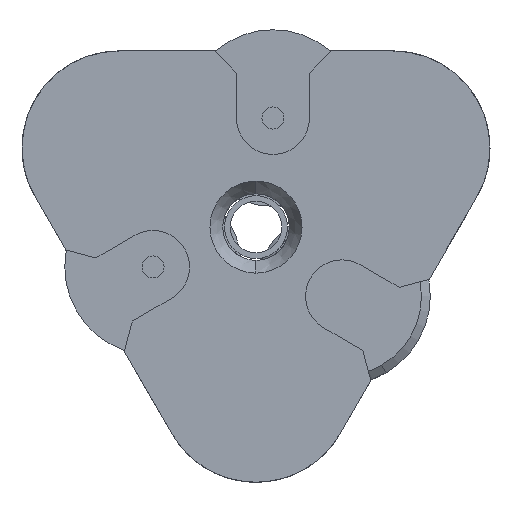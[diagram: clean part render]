
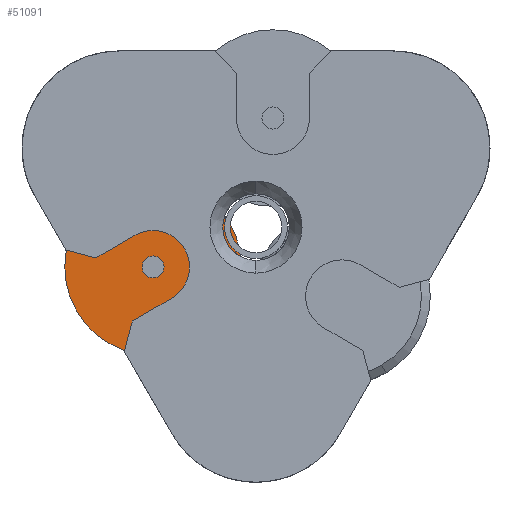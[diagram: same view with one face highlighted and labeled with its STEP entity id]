
A CAD part, front view. The second image highlights one B-rep face of the part: STEP entity #51091.
In plain terms, the highlighted planar face has unit normal (0, -1, 0) as drawn and (0, 0, -1) by its records, which use the part's own axes.
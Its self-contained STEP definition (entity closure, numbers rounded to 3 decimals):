
#769 = CARTESIAN_POINT ( 'NONE',  ( -2., 0., 0. ) ) ;
#2387 = DIRECTION ( 'NONE',  ( 0., 0., -1. ) ) ;
#2534 = CARTESIAN_POINT ( 'NONE',  ( 0., 0., 0. ) ) ;
#3309 = CARTESIAN_POINT ( 'NONE',  ( 0., 0., 0. ) ) ;
#4377 = DIRECTION ( 'NONE',  ( 0., 0., 1. ) ) ;
#7524 = AXIS2_PLACEMENT_3D ( 'NONE', #3309, #4377, #67767 ) ;
#9745 = CARTESIAN_POINT ( 'NONE',  ( 0., 1.425, 0. ) ) ;
#11021 = AXIS2_PLACEMENT_3D ( 'NONE', #43856, #19201, #12314 ) ;
#11310 = VERTEX_POINT ( 'NONE', #44147 ) ;
#12314 = DIRECTION ( 'NONE',  ( 1., 0., 0. ) ) ;
#12330 = AXIS2_PLACEMENT_3D ( 'NONE', #2534, #14974, #58996 ) ;
#13092 = ORIENTED_EDGE ( 'NONE', *, *, #80470, .F. ) ;
#14656 = CIRCLE ( 'NONE', #76009, 0.25 ) ;
#14974 = DIRECTION ( 'NONE',  ( 0., 0., 1. ) ) ;
#16709 = ORIENTED_EDGE ( 'NONE', *, *, #60310, .T. ) ;
#18808 = VERTEX_POINT ( 'NONE', #769 ) ;
#19201 = DIRECTION ( 'NONE',  ( 0., 0., 1. ) ) ;
#20123 = VERTEX_POINT ( 'NONE', #21608 ) ;
#20784 = ORIENTED_EDGE ( 'NONE', *, *, #63137, .F. ) ;
#21608 = CARTESIAN_POINT ( 'NONE',  ( -0.25, 0., 0. ) ) ;
#22202 = DIRECTION ( 'NONE',  ( -1., 0., 0. ) ) ;
#23728 = CIRCLE ( 'NONE', #11021, 2. ) ;
#24522 = CARTESIAN_POINT ( 'NONE',  ( 0.25, 0., 0. ) ) ;
#24544 = FACE_OUTER_BOUND ( 'NONE', #79152, .T. ) ;
#25670 = AXIS2_PLACEMENT_3D ( 'NONE', #35238, #36048, #29682 ) ;
#29682 = DIRECTION ( 'NONE',  ( 1., 0., 0. ) ) ;
#30040 = CARTESIAN_POINT ( 'NONE',  ( 2., 0., 0. ) ) ;
#31186 = CIRCLE ( 'NONE', #45304, 0.525 ) ;
#31586 = EDGE_LOOP ( 'NONE', ( #13092, #20784 ) ) ;
#34377 = CIRCLE ( 'NONE', #12330, 0.25 ) ;
#34406 = CIRCLE ( 'NONE', #7524, 2. ) ;
#35238 = CARTESIAN_POINT ( 'NONE',  ( 0., 0.25, 0. ) ) ;
#35300 = EDGE_LOOP ( 'NONE', ( #16709, #55639 ) ) ;
#35411 = FACE_BOUND ( 'NONE', #35300, .T. ) ;
#36048 = DIRECTION ( 'NONE',  ( 0., 0., 1. ) ) ;
#39485 = DIRECTION ( 'NONE',  ( -1., 0., 0. ) ) ;
#40039 = CARTESIAN_POINT ( 'NONE',  ( 0., 1.425, 0. ) ) ;
#43856 = CARTESIAN_POINT ( 'NONE',  ( 0., 0., 0. ) ) ;
#44147 = CARTESIAN_POINT ( 'NONE',  ( -0.525, 1.425, 0. ) ) ;
#45087 = CARTESIAN_POINT ( 'NONE',  ( 0., 0., 0. ) ) ;
#45304 = AXIS2_PLACEMENT_3D ( 'NONE', #9745, #47385, #22202 ) ;
#45686 = VERTEX_POINT ( 'NONE', #72345 ) ;
#46378 = EDGE_CURVE ( 'NONE', #47686, #18808, #34406, .T. ) ;
#47385 = DIRECTION ( 'NONE',  ( 0., 0., -1. ) ) ;
#47686 = VERTEX_POINT ( 'NONE', #30040 ) ;
#48469 = EDGE_CURVE ( 'NONE', #18808, #47686, #23728, .T. ) ;
#50641 = DIRECTION ( 'NONE',  ( 1., 0., 0. ) ) ;
#51091 = ADVANCED_FACE ( 'NONE', ( #52232, #24544, #35411 ), #73440, .F. ) ;
#52232 = FACE_BOUND ( 'NONE', #31586, .T. ) ;
#54857 = ORIENTED_EDGE ( 'NONE', *, *, #46378, .F. ) ;
#55639 = ORIENTED_EDGE ( 'NONE', *, *, #61198, .T. ) ;
#58996 = DIRECTION ( 'NONE',  ( 1., 0., 0. ) ) ;
#60310 = EDGE_CURVE ( 'NONE', #71558, #20123, #14656, .T. ) ;
#61198 = EDGE_CURVE ( 'NONE', #20123, #71558, #34377, .T. ) ;
#61782 = CIRCLE ( 'NONE', #69933, 0.525 ) ;
#63137 = EDGE_CURVE ( 'NONE', #11310, #45686, #31186, .T. ) ;
#65398 = ORIENTED_EDGE ( 'NONE', *, *, #48469, .F. ) ;
#67767 = DIRECTION ( 'NONE',  ( 1., 0., 0. ) ) ;
#69933 = AXIS2_PLACEMENT_3D ( 'NONE', #40039, #2387, #39485 ) ;
#71558 = VERTEX_POINT ( 'NONE', #24522 ) ;
#72345 = CARTESIAN_POINT ( 'NONE',  ( 0.525, 1.425, 0. ) ) ;
#73440 = PLANE ( 'NONE',  #25670 ) ;
#76009 = AXIS2_PLACEMENT_3D ( 'NONE', #45087, #76121, #50641 ) ;
#76121 = DIRECTION ( 'NONE',  ( 0., 0., 1. ) ) ;
#79152 = EDGE_LOOP ( 'NONE', ( #54857, #65398 ) ) ;
#80470 = EDGE_CURVE ( 'NONE', #45686, #11310, #61782, .T. ) ;
